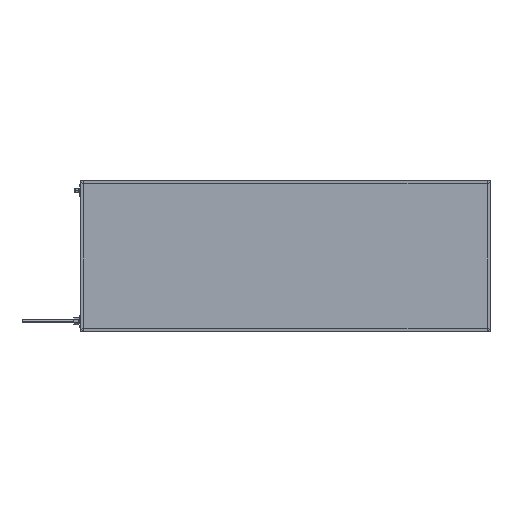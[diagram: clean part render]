
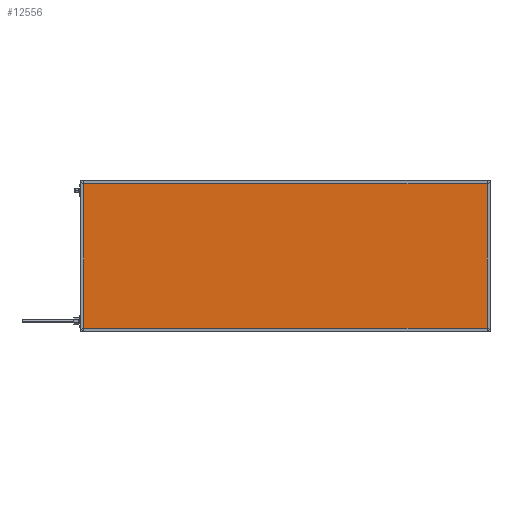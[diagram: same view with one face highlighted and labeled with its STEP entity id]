
A CAD part, top view. The second image highlights one B-rep face of the part: STEP entity #12556.
In plain terms, the highlighted planar face has unit normal (0, 0, 1).
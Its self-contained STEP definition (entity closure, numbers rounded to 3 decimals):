
#170 = DIRECTION ( 'NONE',  ( 0., 1., 0. ) ) ;
#386 = VECTOR ( 'NONE', #170, 1000. ) ;
#460 = VERTEX_POINT ( 'NONE', #14683 ) ;
#2166 = LINE ( 'NONE', #8330, #14972 ) ;
#2442 = VERTEX_POINT ( 'NONE', #12452 ) ;
#2629 = EDGE_CURVE ( 'NONE', #2442, #12476, #11259, .T. ) ;
#2671 = DIRECTION ( 'NONE',  ( 1., 0., 0. ) ) ;
#2717 = LINE ( 'NONE', #2896, #386 ) ;
#2896 = CARTESIAN_POINT ( 'NONE',  ( 1096., 0., 41.85 ) ) ;
#3523 = LINE ( 'NONE', #14469, #3892 ) ;
#3892 = VECTOR ( 'NONE', #17113, 1000. ) ;
#3950 = EDGE_CURVE ( 'NONE', #12476, #460, #2166, .T. ) ;
#4167 = VECTOR ( 'NONE', #13992, 1000. ) ;
#4207 = CARTESIAN_POINT ( 'NONE',  ( 0., 0., 41.85 ) ) ;
#4619 = CARTESIAN_POINT ( 'NONE',  ( 1096., 396., 41.85 ) ) ;
#4847 = EDGE_CURVE ( 'NONE', #460, #11390, #2717, .T. ) ;
#5405 = CARTESIAN_POINT ( 'NONE',  ( 4., 4., 41.85 ) ) ;
#7125 = DIRECTION ( 'NONE',  ( -1., 0., 0. ) ) ;
#8330 = CARTESIAN_POINT ( 'NONE',  ( 0., 4., 41.85 ) ) ;
#10932 = ORIENTED_EDGE ( 'NONE', *, *, #4847, .T. ) ;
#11224 = DIRECTION ( 'NONE',  ( 0., 0., -1. ) ) ;
#11259 = LINE ( 'NONE', #12894, #4167 ) ;
#11273 = EDGE_CURVE ( 'NONE', #11390, #2442, #3523, .T. ) ;
#11390 = VERTEX_POINT ( 'NONE', #4619 ) ;
#12452 = CARTESIAN_POINT ( 'NONE',  ( 4., 396., 41.85 ) ) ;
#12476 = VERTEX_POINT ( 'NONE', #5405 ) ;
#12556 = ADVANCED_FACE ( 'NONE', ( #13875 ), #15594, .F. ) ;
#12751 = ORIENTED_EDGE ( 'NONE', *, *, #3950, .T. ) ;
#12894 = CARTESIAN_POINT ( 'NONE',  ( 4., 0., 41.85 ) ) ;
#13875 = FACE_OUTER_BOUND ( 'NONE', #17335, .T. ) ;
#13992 = DIRECTION ( 'NONE',  ( 0., -1., 0. ) ) ;
#14246 = ORIENTED_EDGE ( 'NONE', *, *, #11273, .T. ) ;
#14469 = CARTESIAN_POINT ( 'NONE',  ( 0., 396., 41.85 ) ) ;
#14683 = CARTESIAN_POINT ( 'NONE',  ( 1096., 4., 41.85 ) ) ;
#14972 = VECTOR ( 'NONE', #2671, 1000. ) ;
#15594 = PLANE ( 'NONE',  #17619 ) ;
#16578 = ORIENTED_EDGE ( 'NONE', *, *, #2629, .T. ) ;
#17113 = DIRECTION ( 'NONE',  ( -1., 0., 0. ) ) ;
#17335 = EDGE_LOOP ( 'NONE', ( #10932, #14246, #16578, #12751 ) ) ;
#17619 = AXIS2_PLACEMENT_3D ( 'NONE', #4207, #11224, #7125 ) ;
